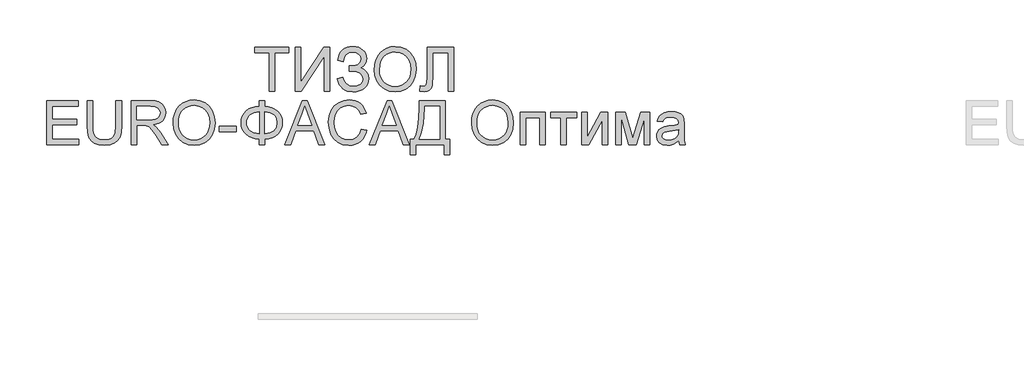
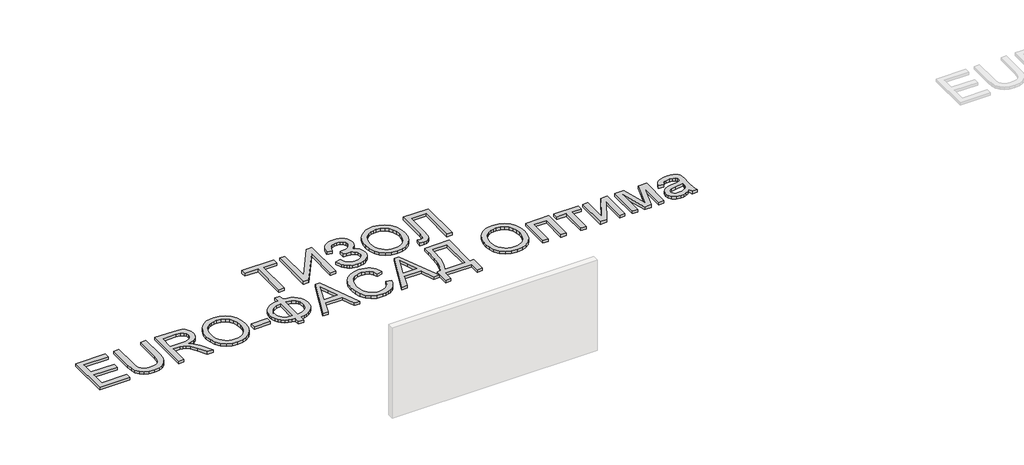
# One storey, part 34 of 35: 1 proxy.
"""IFC4 building model written with IfcOpenShell, lengths in millimetres."""

from ifc_helpers import new_model, si_unit, origin, origin_with_axes, place, context, project, spatial, polyline, outline, extrude, element, save

model = new_model("IFC4")

# Units and contexts
model_context = context("Model", 3, world=origin())
ifc_project = project(units=[si_unit("LENGTHUNIT", "METRE", prefix="MILLI")], contexts=[model_context])

# Site, building, storey
site = spatial("IfcSite", under=ifc_project)
building = spatial("IfcBuilding", under=site)
storey = spatial("IfcBuildingStorey", under=building, Name="Этаж 01", Elevation=0.0)

# Proxy
placement = place(None, origin())
element("IfcBuildingElementProxy", 1, Name="600 мм Arial", ObjectType="600 мм Arial", at=placement, inside=storey, context=model_context, shape_type="SweptSolid", body=[
    extrude(outline(polyline([(77512.8246338, 5315.0742808), (77512.8246338, 5578.7720949), (77413.9379535, 5578.7720949), (77413.9379535, 5616.4432112), (77649.3824304, 5616.4432112), (77649.3824304, 5578.7720949), (77550.4957501, 5578.7720949), (77550.4957501, 5315.0742808), (77512.8246338, 5315.0742808)])), origin_with_axes(), (0.0, 0.0, 1.0), 20.0),
    extrude(outline(polyline([(77691.7624363, 5616.4432112), (77729.4335526, 5616.4432112), (77729.4335526, 5377.7613727), (77887.1813521, 5616.4432112), (77927.2069132, 5616.4432112), (77927.2069132, 5315.0742808), (77889.5357969, 5315.0742808), (77889.5357969, 5553.0939316), (77732.1558793, 5315.0742808), (77691.7624363, 5315.0742808), (77691.7624363, 5616.4432112)])), origin_with_axes(), (0.0, 0.0, 1.0), 20.0),
    extrude(outline(polyline([(77979.0046981, 5399.8342925), (78016.6758144, 5409.2520715), (78024.6312626, 5388.8622119), (78039.8155919, 5368.4539583), (78061.6769795, 5353.1408702), (78089.6636023, 5348.0365075), (78118.018107, 5351.8716773), (78139.6587654, 5363.3771867), (78153.3715668, 5380.3089556), (78157.9425006, 5400.4229036), (78152.9485025, 5421.4933449), (78137.9665082, 5437.7629262), (78114.3760753, 5448.1647896), (78083.5567611, 5451.6320774), (78063.7647098, 5451.6320774), (78063.7647098, 5489.3031937), (78106.402233, 5492.3566142), (78120.2989754, 5497.7828737), (78132.4850665, 5507.9548108), (78140.9831406, 5521.3549125), (78143.8158319, 5536.4656655), (78140.0450415, 5554.2067747), (78128.7326701, 5569.4646804), (78110.9823639, 5579.9769084), (78087.8977687, 5583.4809844), (78067.0296625, 5580.7862488), (78049.4541002, 5572.702042), (78035.9896192, 5560.166463), (78027.4547569, 5544.117611), (78021.384704, 5517.5565309), (77983.7135876, 5526.97431), (77995.4168336, 5568.1770934), (78004.8311638, 5584.3639012), (78016.6206321, 5597.6076531), (78030.7852386, 5607.9083489), (78047.3249831, 5615.2659888), (78066.2398658, 5619.6805728), (78087.5298867, 5621.1521008), (78108.0416072, 5619.6230912), (78126.313846, 5615.0360626), (78142.3466032, 5607.3910149), (78156.1398788, 5596.6879481), (78167.2292217, 5583.9385377), (78175.1501809, 5570.1544592), (78179.9027564, 5555.3357126), (78181.4869483, 5539.4822978), (78179.0221389, 5519.6580568), (78171.6277108, 5502.1974576), (78159.3036639, 5487.1005002), (78142.0499984, 5474.3671847), (78163.000878, 5464.7194794), (78180.2361495, 5448.431504), (78191.76925, 5426.9012102), (78195.6136169, 5401.5265496), (78193.7696084, 5382.8956258), (78188.2375829, 5365.8511931), (78179.0175404, 5350.3932516), (78166.1094809, 5336.5218011), (78150.1571978, 5325.0783718), (78131.8044848, 5316.9044937), (78111.0513418, 5312.0001668), (78087.8977687, 5310.3653912), (78049.6932235, 5315.9571976), (78033.3362703, 5322.9469555), (78018.80953, 5332.7326165), (78006.1130026, 5345.3141808), (77995.2466882, 5360.6916482), (77979.0046981, 5399.8342925)])), origin_with_axes(), (0.0, 0.0, 1.0), 20.0),
    extrude(outline(polyline([(78233.2847332, 5461.7856204), (78235.7955278, 5497.1344817), (78243.3279116, 5528.4274439), (78255.8818847, 5555.6645071), (78273.457447, 5578.8456713), (78295.0015364, 5597.3547342), (78319.4610905, 5610.5754934), (78346.8361095, 5618.5079489), (78377.1265933, 5621.1521008), (78416.6555137, 5616.1856938), (78452.1009439, 5601.286473), (78481.5315035, 5577.502902), (78503.015812, 5545.8834445), (78516.1491993, 5507.9548108), (78520.526995, 5465.2437112), (78515.919273, 5421.9623945), (78502.096107, 5383.5003319), (78479.8208522, 5351.8256921), (78449.8568637, 5328.9066438), (78414.7149361, 5315.0007044), (78376.9058641, 5310.3653912), (78336.7699384, 5315.488148), (78301.1221731, 5330.8564184), (78271.7651899, 5355.0814477), (78250.5016105, 5386.7744816), (78237.5889525, 5423.2407844), (78233.2847332, 5461.7856204)]), holes=[polyline([(78270.9558495, 5461.4177384), (78272.8389454, 5436.4431495), (78278.4882333, 5414.2736608), (78287.9037131, 5394.9092722), (78301.0853849, 5378.3499839), (78317.108945, 5365.087838), (78335.0500901, 5355.6148766), (78354.90882, 5349.9310998), (78376.6851349, 5348.0365075), (78398.8339303, 5349.9494939), (78418.927185, 5355.688453), (78436.9648991, 5365.2533849), (78452.9470725, 5378.6442895), (78466.0321752, 5395.5530657), (78475.3786771, 5415.6716123), (78480.9865783, 5438.9999294), (78482.8558787, 5465.5380168), (78479.6553053, 5498.8865197), (78470.0535853, 5527.710074), (78454.2990388, 5551.2821128), (78432.6399864, 5568.8760692), (78406.5111677, 5579.8297556), (78377.3473225, 5583.4809844), (78356.327465, 5581.7220487), (78336.8251207, 5576.4452413), (78318.8402897, 5567.6505623), (78302.3729719, 5555.3380118), (78288.6279808, 5538.91438), (78278.8101301, 5517.7864572), (78272.9194196, 5491.9542433), (78270.9558495, 5461.4177384)])]), origin_with_axes(), (0.0, 0.0, 1.0), 20.0),
    extrude(outline(polyline([(78595.8692276, 5616.4432112), (78779.5159196, 5616.4432112), (78779.5159196, 5315.0742808), (78741.8448033, 5315.0742808), (78741.8448033, 5578.7720949), (78633.5403439, 5578.7720949), (78633.5403439, 5424.9974209), (78629.1625482, 5356.3874288), (78622.3843224, 5337.0000477), (78610.8052366, 5322.4687089), (78594.9495226, 5313.3912206), (78575.3414123, 5310.3653912), (78544.0714427, 5315.0742808), (78548.7803322, 5352.7453971), (78566.80655, 5348.0365075), (78579.5444641, 5350.5656963), (78588.6219523, 5358.1532624), (78594.0574088, 5375.1218194), (78595.8692276, 5405.7939808), (78595.8692276, 5616.4432112)])), origin_with_axes(), (0.0, 0.0, 1.0), 20.0),
    extrude(outline(polyline([(75989.4988682, 4949.1498272), (75989.4988682, 5250.5187577), (76206.107787, 5250.5187577), (76206.107787, 5212.8476414), (76027.1699845, 5212.8476414), (76027.1699845, 5123.3787401), (76196.6900079, 5123.3787401), (76196.6900079, 5085.7076238), (76027.1699845, 5085.7076238), (76027.1699845, 4986.8209435), (76210.8166765, 4986.8209435), (76210.8166765, 4949.1498272), (75989.4988682, 4949.1498272)])), origin_with_axes(), (0.0, 0.0, 1.0), 20.0),
    extrude(outline(polyline([(76465.0967116, 5250.5187577), (76502.7678279, 5250.5187577), (76502.7678279, 5076.6577268), (76500.211048, 5035.9423869), (76492.5407084, 5004.5896439), (76478.2117047, 4980.4014027), (76455.6789325, 4961.1795685), (76424.8872095, 4948.6255954), (76385.7813534, 4944.4409377), (76347.5308229, 4948.0829694), (76316.9506321, 4959.0090647), (76294.0315838, 4976.8421444), (76278.764481, 5001.2051295), (76270.1836335, 5033.8822478), (76267.3233509, 5076.6577268), (76267.3233509, 5250.5187577), (76304.9944673, 5250.5187577), (76304.9944673, 5077.9821019), (76306.8522713, 5044.1277613), (76312.4256836, 5020.5557225), (76322.5240443, 5004.230959), (76337.956694, 4992.1184443), (76358.0798392, 4984.6136516), (76382.2496862, 4982.112054), (76420.564596, 4987.0600668), (76434.9073953, 4993.2450829), (76446.0404242, 5001.9041053), (76454.3775499, 5014.0809994), (76460.3326397, 5030.8196302), (76465.0967116, 5077.9821019), (76465.0967116, 5250.5187577)])), origin_with_axes(), (0.0, 0.0, 1.0), 20.0),
    extrude(outline(polyline([(76568.6922814, 4949.1498272), (76568.6922814, 5250.5187577), (76698.5546257, 5250.5187577), (76733.45743, 5248.4862097), (76758.8504847, 5242.3885656), (76777.4101314, 5231.1313765), (76791.8127115, 5213.6201936), (76801.0557466, 5191.9059588), (76804.1367583, 5168.0396144), (76799.0323956, 5138.3515373), (76783.7193076, 5113.7402319), (76772.1195284, 5103.710849), (76757.7376417, 5095.69562), (76720.6275454, 5085.7076238), (76742.0382775, 5069.5943925), (76772.5724831, 5030.8196302), (76822.8251637, 4949.1498272), (76779.0472062, 4949.1498272), (76739.8309856, 5011.61619), (76711.5040719, 5052.9661263), (76691.601656, 5072.5006602), (76673.6858028, 5079.6743591), (76651.8336123, 5080.9987343), (76606.3633977, 5080.9987343), (76606.3633977, 4949.1498272), (76568.6922814, 4949.1498272)]), holes=[polyline([(76606.3633977, 5118.6698506), (76690.681951, 5118.6698506), (76714.8977833, 5120.0034228), (76733.6873562, 5124.0041395), (76747.8324189, 5130.9387151), (76758.1147207, 5141.0738641), (76764.3779117, 5153.3335316), (76766.465642, 5166.6416628), (76762.4833194, 5185.0173684), (76750.5363516, 5199.8246187), (76729.9809451, 5209.5918857), (76700.1733065, 5212.8476414), (76606.3633977, 5212.8476414), (76606.3633977, 5118.6698506)])]), origin_with_axes(), (0.0, 0.0, 1.0), 20.0),
    extrude(outline(polyline([(76855.9345432, 5095.8611669), (76858.4453378, 5131.2100281), (76865.9777217, 5162.5029903), (76878.5316948, 5189.7400536), (76896.1072571, 5212.9212178), (76917.6513464, 5231.4302807), (76942.1109006, 5244.6510399), (76969.4859196, 5252.5834954), (76999.7764033, 5255.2276472), (77039.3053237, 5250.2612403), (77074.750754, 5235.3620195), (77104.1813136, 5211.5784485), (77125.6656221, 5179.958991), (77138.7990093, 5142.0303573), (77143.1768051, 5099.3192577), (77138.5690831, 5056.0379409), (77124.7459171, 5017.5758783), (77102.4706623, 4985.9012385), (77072.5066738, 4962.9821902), (77037.3647462, 4949.0762508), (76999.5556741, 4944.4409377), (76959.4197485, 4949.5636945), (76923.7719831, 4964.9319648), (76894.4149999, 4989.1569942), (76873.1514206, 5020.8500281), (76860.2387626, 5057.3163309), (76855.9345432, 5095.8611669)]), holes=[polyline([(76893.6056595, 5095.4932849), (76895.4887555, 5070.518696), (76901.1380434, 5048.3492072), (76910.5535232, 5028.9848187), (76923.7351949, 5012.4255304), (76939.7587551, 4999.1633845), (76957.6999001, 4989.6904231), (76977.5586301, 4984.0066463), (76999.334945, 4982.112054), (77021.4837403, 4984.0250404), (77041.576995, 4989.7639995), (77059.6147091, 4999.3289314), (77075.5968826, 5012.719836), (77088.6819853, 5029.6286122), (77098.0284872, 5049.7471588), (77103.6363884, 5073.0754758), (77105.5056888, 5099.6135633), (77102.3051154, 5132.9620661), (77092.7033953, 5161.7856204), (77076.9488489, 5185.3576593), (77055.2897964, 5202.9516157), (77029.1609777, 5213.9053021), (76999.9971325, 5217.5565309), (76978.977275, 5215.7975951), (76959.4749308, 5210.5207878), (76941.4900997, 5201.7261088), (76925.0227819, 5189.4135583), (76911.2777909, 5172.9899265), (76901.4599401, 5151.8620036), (76895.5692297, 5126.0297898), (76893.6056595, 5095.4932849)])]), origin_with_axes(), (0.0, 0.0, 1.0), 20.0),
    extrude(outline(polyline([(77171.4301423, 5038.6187285), (77171.4301423, 5076.2898448), (77289.1523808, 5076.2898448), (77289.1523808, 5038.6187285), (77171.4301423, 5038.6187285)])), origin_with_axes(), (0.0, 0.0, 1.0), 20.0),
    extrude(outline(polyline([(77444.5457355, 5212.8476414), (77444.5457355, 5250.5187577), (77482.2168518, 5250.5187577), (77482.2168518, 5212.8476414), (77509.0883323, 5209.5275064), (77532.9753701, 5202.6573101), (77553.8779652, 5192.2370526), (77571.7961176, 5178.2667338), (77586.1688073, 5161.5602927), (77596.4350143, 5142.9316682), (77602.5947384, 5122.3808602), (77604.6479798, 5099.9078689), (77602.6591178, 5077.8855329), (77596.6925317, 5057.5830453), (77586.7482215, 5039.000406), (77572.8261872, 5022.1376151), (77555.2299316, 5007.928173), (77534.2629571, 4997.3055804), (77509.9252638, 4990.2698372), (77482.2168518, 4986.8209435), (77482.2168518, 4949.1498272), (77444.5457355, 4949.1498272), (77444.5457355, 4986.8209435), (77419.3780085, 4989.628343), (77396.4083764, 4995.9904023), (77375.6368393, 5005.9071213), (77357.0633971, 5019.3785001), (77341.7733016, 5035.8481172), (77330.8518049, 5054.759551), (77324.2989069, 5076.1128016), (77322.1146075, 5099.9078689), (77324.2920091, 5123.8110015), (77330.8242138, 5145.1941425), (77341.7112215, 5164.0572918), (77356.9530325, 5180.4004494), (77375.4919858, 5193.7407702), (77396.2704207, 5203.5954092), (77419.2883373, 5209.9643662), (77444.5457355, 5212.8476414)]), holes=[polyline([(77444.5457355, 5175.1765251), (77410.2683306, 5169.1432603), (77383.2198069, 5154.1336749), (77372.9673956, 5143.4283089), (77365.6442446, 5130.8099564), (77361.250354, 5116.2786176), (77359.7857238, 5099.8342925), (77361.2319599, 5083.5394193), (77365.5706682, 5069.0885547), (77372.8018487, 5056.4816986), (77382.9255013, 5045.718851), (77409.9004486, 5030.5713098), (77444.5457355, 5024.4920598), (77444.5457355, 5175.1765251)]), polyline([(77482.2168518, 5175.1765251), (77482.2168518, 5024.4920598), (77517.459947, 5030.7184626), (77544.3153326, 5045.8660038), (77554.2297524, 5056.5920632), (77561.3114808, 5069.1621311), (77566.9768635, 5099.8342925), (77561.4126483, 5130.0925866), (77554.4573794, 5142.5867788), (77544.7200028, 5153.3243346), (77517.9657847, 5168.6466197), (77482.2168518, 5175.1765251)])]), origin_with_axes(), (0.0, 0.0, 1.0), 20.0),
    extrude(outline(polyline([(77621.3498224, 4949.1498272), (77741.6472348, 5250.5187577), (77773.7265448, 5250.5187577), (77894.0239572, 4949.1498272), (77854.2191253, 4949.1498272), (77819.7117942, 5043.327618), (77695.588409, 5043.327618), (77661.1546543, 4949.1498272), (77621.3498224, 4949.1498272)]), holes=[polyline([(77709.420772, 5080.9987343), (77805.9530076, 5080.9987343), (77778.8033163, 5155.0901681), (77757.6868898, 5212.8476414), (77738.9249081, 5161.5648912), (77709.420772, 5080.9987343)])]), origin_with_axes(), (0.0, 0.0, 1.0), 20.0),
    extrude(outline(polyline([(78146.1702767, 5056.2770642), (78183.841393, 5046.5649796), (78176.3871841, 5023.1377942), (78166.4589687, 5002.6674605), (78154.056747, 4985.1539782), (78139.1805188, 4970.5973475), (78122.1659765, 4959.1539182), (78103.3488125, 4950.9800402), (78082.7290266, 4946.0757133), (78060.306619, 4944.4409377), (78016.6114351, 4949.3889505), (77981.9109659, 4964.232989), (77955.3130976, 4988.4580184), (77935.9257165, 5021.5490039), (77924.0891133, 5060.4525249), (77920.1435789, 5102.1151608), (77924.6041481, 5146.0586651), (77937.9858556, 5184.005693), (77959.5897258, 5214.7514307), (77988.7167828, 5237.0910649), (78023.2609021, 5250.6935016), (78061.1159594, 5255.2276472), (78102.4199104, 5249.3599294), (78120.3886466, 5242.0252821), (78136.5685566, 5231.7567759), (78150.692926, 5218.8257238), (78162.4950403, 5203.5034387), (78179.1325035, 5165.6851696), (78141.4613872, 5156.7088489), (78128.4015763, 5184.1804369), (78110.5592996, 5203.0251921), (78087.7138277, 5213.9236962), (78059.6444314, 5217.5565309), (78027.28921, 5213.5282231), (78000.7097358, 5201.4432995), (77980.5406054, 5182.5709532), (77967.4164153, 5158.1803769), (77960.2151252, 5130.6076214), (77957.8146952, 5102.1887372), (77960.6565836, 5067.3871005), (77969.1822488, 5037.2943533), (77983.7135876, 5013.0601268), (78004.5724968, 4995.8340524), (78029.5792754, 4985.5425536), (78056.5542227, 4982.112054), (78087.9989362, 4986.7841553), (78114.2013313, 5000.8004594), (78133.9841856, 5024.0138132), (78146.1702767, 5056.2770642)])), origin_with_axes(), (0.0, 0.0, 1.0), 20.0),
    extrude(outline(polyline([(78200.5432356, 4949.1498272), (78320.840648, 5250.5187577), (78352.919958, 5250.5187577), (78473.2173704, 4949.1498272), (78433.4125385, 4949.1498272), (78398.9052074, 5043.327618), (78274.7818222, 5043.327618), (78240.3480675, 4949.1498272), (78200.5432356, 4949.1498272)]), holes=[polyline([(78288.6141852, 5080.9987343), (78385.1464208, 5080.9987343), (78357.9967295, 5155.0901681), (78336.880303, 5212.8476414), (78318.1183213, 5161.5648912), (78288.6141852, 5080.9987343)])]), origin_with_axes(), (0.0, 0.0, 1.0), 20.0),
    extrude(outline(polyline([(78541.7169979, 5250.5187577), (78720.6548004, 5250.5187577), (78720.6548004, 4986.8209435), (78748.9081376, 4986.8209435), (78748.9081376, 4878.5164842), (78711.2370213, 4878.5164842), (78711.2370213, 4949.1498272), (78518.1725502, 4949.1498272), (78518.1725502, 4878.5164842), (78480.5014339, 4878.5164842), (78480.5014339, 4986.8209435), (78504.0458816, 4986.8209435), (78520.526995, 5020.9925824), (78532.2992189, 5069.0609636), (78539.3625532, 5131.0260871), (78541.7169979, 5206.8879531), (78541.7169979, 5250.5187577)]), holes=[polyline([(78682.9836841, 5212.8476414), (78579.3881142, 5212.8476414), (78579.3881142, 5197.6909032), (78571.7361687, 5094.4632153), (78560.4054033, 5034.8111498), (78541.7169979, 4986.8209435), (78682.9836841, 4986.8209435), (78682.9836841, 5212.8476414)])]), origin_with_axes(), (0.0, 0.0, 1.0), 20.0),
    extrude(outline(polyline([(78899.5926028, 5095.8611669), (78902.1033975, 5131.2100281), (78909.6357813, 5162.5029903), (78922.1897544, 5189.7400536), (78939.7653167, 5212.9212178), (78961.3094061, 5231.4302807), (78985.7689602, 5244.6510399), (79013.1439792, 5252.5834954), (79043.434463, 5255.2276472), (79082.9633833, 5250.2612403), (79118.4088136, 5235.3620195), (79147.8393732, 5211.5784485), (79169.3236817, 5179.958991), (79182.4570689, 5142.0303573), (79186.8348647, 5099.3192577), (79182.2271427, 5056.0379409), (79168.4039767, 5017.5758783), (79146.1287219, 4985.9012385), (79116.1647334, 4962.9821902), (79081.0228058, 4949.0762508), (79043.2137338, 4944.4409377), (79003.0778081, 4949.5636945), (78967.4300427, 4964.9319648), (78938.0730595, 4989.1569942), (78916.8094802, 5020.8500281), (78903.8968222, 5057.3163309), (78899.5926028, 5095.8611669)]), holes=[polyline([(78937.2637191, 5095.4932849), (78939.1468151, 5070.518696), (78944.796103, 5048.3492072), (78954.2115828, 5028.9848187), (78967.3932545, 5012.4255304), (78983.4168147, 4999.1633845), (79001.3579598, 4989.6904231), (79021.2166897, 4984.0066463), (79042.9930046, 4982.112054), (79065.1417999, 4984.0250404), (79085.2350547, 4989.7639995), (79103.2727687, 4999.3289314), (79119.2549422, 5012.719836), (79132.3400449, 5029.6286122), (79141.6865468, 5049.7471588), (79147.294448, 5073.0754758), (79149.1637484, 5099.6135633), (79145.963175, 5132.9620661), (79136.3614549, 5161.7856204), (79120.6069085, 5185.3576593), (79098.947856, 5202.9516157), (79072.8190373, 5213.9053021), (79043.6551921, 5217.5565309), (79022.6353346, 5215.7975951), (79003.1329904, 5210.5207878), (78985.1481593, 5201.7261088), (78968.6808415, 5189.4135583), (78954.9358505, 5172.9899265), (78945.1179997, 5151.8620036), (78939.2272893, 5126.0297898), (78937.2637191, 5095.4932849)])]), origin_with_axes(), (0.0, 0.0, 1.0), 20.0),
    extrude(outline(polyline([(79233.9237601, 5170.4676355), (79403.4437834, 5170.4676355), (79403.4437834, 4949.1498272), (79365.7726671, 4949.1498272), (79365.7726671, 5132.7965192), (79271.5948764, 5132.7965192), (79271.5948764, 4949.1498272), (79233.9237601, 4949.1498272), (79233.9237601, 5170.4676355)])), origin_with_axes(), (0.0, 0.0, 1.0), 20.0),
    extrude(outline(polyline([(79441.1148997, 5170.4676355), (79620.0527022, 5170.4676355), (79620.0527022, 5132.7965192), (79549.4193591, 5132.7965192), (79549.4193591, 4949.1498272), (79511.7482428, 4949.1498272), (79511.7482428, 5132.7965192), (79441.1148997, 5132.7965192), (79441.1148997, 5170.4676355)])), origin_with_axes(), (0.0, 0.0, 1.0), 20.0),
    extrude(outline(polyline([(79653.014929, 5170.4676355), (79690.6860453, 5170.4676355), (79690.6860453, 5001.6833761), (79783.2451553, 5170.4676355), (79831.9527314, 5170.4676355), (79831.9527314, 4949.1498272), (79794.2816151, 4949.1498272), (79794.2816151, 5116.904017), (79702.3111163, 4949.1498272), (79653.014929, 4949.1498272), (79653.014929, 5170.4676355)])), origin_with_axes(), (0.0, 0.0, 1.0), 20.0),
    extrude(outline(polyline([(79888.4594059, 5170.4676355), (79953.2802134, 5170.4676355), (80003.2385884, 4993.2956667), (80057.0965125, 5170.4676355), (80119.1949932, 5170.4676355), (80119.1949932, 4949.1498272), (80081.5238769, 4949.1498272), (80081.5238769, 5127.3518657), (80027.3716473, 4949.1498272), (79977.9283071, 4949.1498272), (79926.1305222, 5135.886728), (79926.1305222, 4949.1498272), (79888.4594059, 4949.1498272), (79888.4594059, 5170.4676355)])), origin_with_axes(), (0.0, 0.0, 1.0), 20.0),
    extrude(outline(polyline([(80316.9683539, 4977.4031645), (80298.9697272, 4961.9705148), (80280.4376717, 4951.872154), (80260.949123, 4946.2987418), (80240.0810169, 4944.4409377), (80208.5995151, 4948.9107039), (80185.3769642, 4962.3200027), (80171.0571575, 4982.6822711), (80166.2838886, 5008.0109465), (80168.0865104, 5023.6275372), (80173.4943757, 5037.8093881), (80181.8361, 5049.9494939), (80192.4402985, 5059.4408494), (80218.8174375, 5071.8016844), (80251.4117823, 5077.4670671), (80289.9290272, 5083.4267555), (80316.7476247, 5090.4165134), (80316.9683539, 5098.8042229), (80314.3747858, 5115.61643), (80306.5940816, 5126.6161017), (80289.1932632, 5134.783082), (80264.9498397, 5137.5054088), (80242.509038, 5135.6935899), (80226.837265, 5130.2581335), (80216.1502931, 5120.2057579), (80208.6638945, 5104.543182), (80170.9927782, 5109.2520715), (80177.5318806, 5129.8534633), (80187.2899506, 5146.040271), (80201.1774959, 5158.4195002), (80220.1050245, 5167.598156), (80243.2539991, 5173.2819328), (80269.8058821, 5175.1765251), (80295.2725132, 5173.502662), (80315.4600377, 5168.4810728), (80330.6811552, 5160.9302948), (80341.2485655, 5151.6688656), (80348.2567175, 5140.2185385), (80352.8000602, 5126.1010669), (80354.6394702, 5093.1388401), (80354.6394702, 5046.270674), (80356.5524565, 4980.824467), (80364.0572492, 4949.1498272), (80326.3861329, 4949.1498272), (80316.9683539, 4977.4031645)]), holes=[polyline([(80316.9683539, 5052.7453971), (80256.1942483, 5041.1939024), (80223.7838445, 5035.0870613), (80209.1053529, 5025.1542474), (80203.9550049, 5010.6596968), (80206.7601051, 4999.4576901), (80215.1754058, 4990.2790343), (80229.0169659, 4984.1537991), (80248.1008444, 4982.112054), (80268.3343541, 4984.3653312), (80286.2134191, 4991.1251629), (80300.7079697, 5001.0855679), (80310.7879363, 5012.9405652), (80315.2577026, 5025.1542474), (80316.7476247, 5042.0768192), (80316.9683539, 5052.7453971)])]), origin_with_axes(), (0.0, 0.0, 1.0), 20.0),
])

save(model, "model.ifc")
